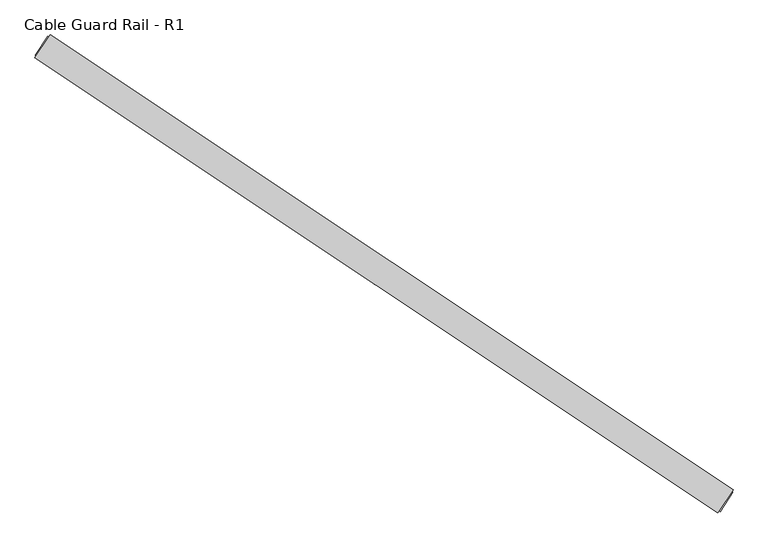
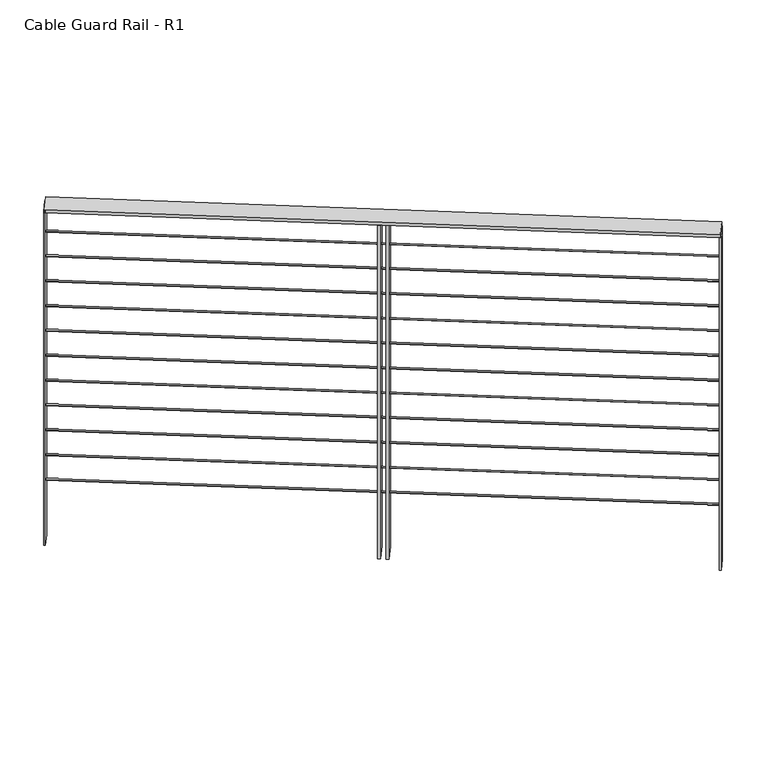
"""IFC4 building model written with IfcOpenShell, lengths in millimetres: railing geometry, Cable Guard Rail - R1."""

from ifc_helpers import new_model, si_unit, point, frame, origin, origin_2d, place, context, project, spatial, polyline, circle_curve, trimmed, segment, composite_curve, outline, extrude, source, transform, mapped, element, save


def cable_guard_rail_r1_27c920db(model_context):
    return source(origin(), model_context, "Body", "SweptSolid", [
        extrude(outline(polyline([(49368.699992, 176661.2791287), (49326.4476403, 176597.8663636), (47436.5035564, 177857.1488133), (47478.7559081, 177920.5615783), (49368.699992, 176661.2791287)])), frame((0.0, 0.0, 294906.7), z_axis=(0.0, 0.0, 1.0), x_axis=(1.0, 0.0, 0.0)), (0.0, 0.0, 1.0), 12.7),
        extrude(outline(composite_curve([segment(trimmed(circle_curve(origin_2d(), 3.175), [point((-3.175, 0.0))], [point((3.175, 0.0))], False, "CARTESIAN"), True, "CONTINUOUS"), segment(trimmed(circle_curve(origin_2d(), 3.175), [point((3.175, 0.0))], [point((-3.175, 0.0))], False, "CARTESIAN"), True, "CONTINUOUS")], self_intersect=False)), frame((49347.5738161, 176629.5727462, 294805.1), z_axis=(-0.8321885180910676, 0.5544928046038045, 0.0), x_axis=(0.5544928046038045, 0.8321885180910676, 0.0)), (0.0, 0.0, 1.0), 2271.0528237),
        extrude(outline(composite_curve([segment(trimmed(circle_curve(origin_2d(), 3.175), [point((-3.175, 0.0))], [point((3.175, 0.0))], False, "CARTESIAN"), True, "CONTINUOUS"), segment(trimmed(circle_curve(origin_2d(), 3.175), [point((3.175, 0.0))], [point((-3.175, 0.0))], False, "CARTESIAN"), True, "CONTINUOUS")], self_intersect=False)), frame((49347.5738161, 176629.5727462, 294703.5), z_axis=(-0.8321885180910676, 0.5544928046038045, 0.0), x_axis=(0.5544928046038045, 0.8321885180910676, 0.0)), (0.0, 0.0, 1.0), 2271.0528237),
        extrude(outline(composite_curve([segment(trimmed(circle_curve(origin_2d(), 3.175), [point((-3.175, 0.0))], [point((3.175, 0.0))], False, "CARTESIAN"), True, "CONTINUOUS"), segment(trimmed(circle_curve(origin_2d(), 3.175), [point((3.175, 0.0))], [point((-3.175, 0.0))], False, "CARTESIAN"), True, "CONTINUOUS")], self_intersect=False)), frame((49347.5738161, 176629.5727462, 294601.9), z_axis=(-0.8321885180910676, 0.5544928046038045, 0.0), x_axis=(0.5544928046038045, 0.8321885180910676, 0.0)), (0.0, 0.0, 1.0), 2271.0528237),
        extrude(outline(composite_curve([segment(trimmed(circle_curve(origin_2d(), 3.175), [point((-3.175, 0.0))], [point((3.175, 0.0))], False, "CARTESIAN"), True, "CONTINUOUS"), segment(trimmed(circle_curve(origin_2d(), 3.175), [point((3.175, 0.0))], [point((-3.175, 0.0))], False, "CARTESIAN"), True, "CONTINUOUS")], self_intersect=False)), frame((49347.5738161, 176629.5727462, 294500.3), z_axis=(-0.8321885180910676, 0.5544928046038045, 0.0), x_axis=(0.5544928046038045, 0.8321885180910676, 0.0)), (0.0, 0.0, 1.0), 2271.0528237),
        extrude(outline(composite_curve([segment(trimmed(circle_curve(origin_2d(), 3.175), [point((-3.175, 0.0))], [point((3.175, 0.0))], False, "CARTESIAN"), True, "CONTINUOUS"), segment(trimmed(circle_curve(origin_2d(), 3.175), [point((3.175, 0.0))], [point((-3.175, 0.0))], False, "CARTESIAN"), True, "CONTINUOUS")], self_intersect=False)), frame((49347.5738161, 176629.5727462, 294398.7), z_axis=(-0.8321885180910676, 0.5544928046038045, 0.0), x_axis=(0.5544928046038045, 0.8321885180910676, 0.0)), (0.0, 0.0, 1.0), 2271.0528237),
        extrude(outline(composite_curve([segment(trimmed(circle_curve(origin_2d(), 3.175), [point((-3.175, 0.0))], [point((3.175, 0.0))], False, "CARTESIAN"), True, "CONTINUOUS"), segment(trimmed(circle_curve(origin_2d(), 3.175), [point((3.175, 0.0))], [point((-3.175, 0.0))], False, "CARTESIAN"), True, "CONTINUOUS")], self_intersect=False)), frame((49347.5738161, 176629.5727462, 294297.1), z_axis=(-0.8321885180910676, 0.5544928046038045, 0.0), x_axis=(0.5544928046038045, 0.8321885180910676, 0.0)), (0.0, 0.0, 1.0), 2271.0528237),
        extrude(outline(composite_curve([segment(trimmed(circle_curve(origin_2d(), 3.175), [point((-3.175, 0.0))], [point((3.175, 0.0))], False, "CARTESIAN"), True, "CONTINUOUS"), segment(trimmed(circle_curve(origin_2d(), 3.175), [point((3.175, 0.0))], [point((-3.175, 0.0))], False, "CARTESIAN"), True, "CONTINUOUS")], self_intersect=False)), frame((49347.5738161, 176629.5727462, 294195.5), z_axis=(-0.8321885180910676, 0.5544928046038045, 0.0), x_axis=(0.5544928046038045, 0.8321885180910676, 0.0)), (0.0, 0.0, 1.0), 2271.0528237),
        extrude(outline(composite_curve([segment(trimmed(circle_curve(origin_2d(), 3.175), [point((-3.175, 0.0))], [point((3.175, 0.0))], False, "CARTESIAN"), True, "CONTINUOUS"), segment(trimmed(circle_curve(origin_2d(), 3.175), [point((3.175, 0.0))], [point((-3.175, 0.0))], False, "CARTESIAN"), True, "CONTINUOUS")], self_intersect=False)), frame((49347.5738161, 176629.5727462, 294093.9), z_axis=(-0.8321885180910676, 0.5544928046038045, 0.0), x_axis=(0.5544928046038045, 0.8321885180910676, 0.0)), (0.0, 0.0, 1.0), 2271.0528237),
        extrude(outline(composite_curve([segment(trimmed(circle_curve(origin_2d(), 3.175), [point((-3.175, 0.0))], [point((3.175, 0.0))], False, "CARTESIAN"), True, "CONTINUOUS"), segment(trimmed(circle_curve(origin_2d(), 3.175), [point((3.175, 0.0))], [point((-3.175, 0.0))], False, "CARTESIAN"), True, "CONTINUOUS")], self_intersect=False)), frame((49347.5738161, 176629.5727462, 293992.3), z_axis=(-0.8321885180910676, 0.5544928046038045, 0.0), x_axis=(0.5544928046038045, 0.8321885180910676, 0.0)), (0.0, 0.0, 1.0), 2271.0528237),
        extrude(outline(composite_curve([segment(trimmed(circle_curve(origin_2d(), 3.175), [point((-3.175, 0.0))], [point((3.175, 0.0))], False, "CARTESIAN"), True, "CONTINUOUS"), segment(trimmed(circle_curve(origin_2d(), 3.175), [point((3.175, 0.0))], [point((-3.175, 0.0))], False, "CARTESIAN"), True, "CONTINUOUS")], self_intersect=False)), frame((49347.5738161, 176629.5727462, 293890.7), z_axis=(-0.8321885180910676, 0.5544928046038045, 0.0), x_axis=(0.5544928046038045, 0.8321885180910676, 0.0)), (0.0, 0.0, 1.0), 2271.0528237),
        extrude(outline(composite_curve([segment(trimmed(circle_curve(origin_2d(), 3.175), [point((-3.175, 0.0))], [point((3.175, 0.0))], False, "CARTESIAN"), True, "CONTINUOUS"), segment(trimmed(circle_curve(origin_2d(), 3.175), [point((3.175, 0.0))], [point((-3.175, 0.0))], False, "CARTESIAN"), True, "CONTINUOUS")], self_intersect=False)), frame((49347.5738161, 176629.5727462, 293789.1), z_axis=(-0.8321885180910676, 0.5544928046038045, 0.0), x_axis=(0.5544928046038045, 0.8321885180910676, 0.0)), (0.0, 0.0, 1.0), 2271.0528237),
        extrude(outline(polyline([(48399.9709882, 177215.1839859), (48392.0443925, 177220.4655298), (48434.2967443, 177283.8782949), (48442.2233399, 177278.5967509), (48399.9709882, 177215.1839859)])), frame((0.0, 0.0, 293541.45), z_axis=(0.0, 0.0, 1.0), x_axis=(1.0, 0.0, 0.0)), (0.0, 0.0, 1.0), 1365.25),
        extrude(outline(polyline([(48376.1912013, 177231.0286178), (48368.3047466, 177236.2834156), (48410.5570983, 177299.6961806), (48418.443553, 177294.4413828), (48376.1912013, 177231.0286178)])), frame((0.0, 0.0, 293541.45), z_axis=(0.0, 0.0, 1.0), x_axis=(1.0, 0.0, 0.0)), (0.0, 0.0, 1.0), 1365.25),
        extrude(outline(polyline([(47442.6667843, 177860.6726957), (47437.3823872, 177864.193725), (47472.5926803, 177917.0376959), (47477.8770774, 177913.5166666), (47442.6667843, 177860.6726957)])), frame((0.0, 0.0, 293541.45), z_axis=(0.0, 0.0, 1.0), x_axis=(1.0, 0.0, 0.0)), (0.0, 0.0, 1.0), 1365.25),
        extrude(outline(polyline([(49332.6108681, 176601.3902461), (49327.3264711, 176604.9112754), (49362.5367642, 176657.7552463), (49367.8211612, 176654.234217), (49332.6108681, 176601.3902461)])), frame((0.0, 0.0, 293541.45), z_axis=(0.0, 0.0, 1.0), x_axis=(1.0, 0.0, 0.0)), (0.0, 0.0, 1.0), 1365.25),
    ])


if __name__ == "__main__":
    model = new_model("IFC4")
    model_context = context("Model", 3, world=origin())
    ifc_project = project(units=[si_unit("LENGTHUNIT", "METRE", prefix="MILLI")], contexts=[model_context])
    site = spatial("IfcSite", under=ifc_project)
    building = spatial("IfcBuilding", under=site)
    placement = place(None, origin())
    cable_guard_rail_r1_shape = cable_guard_rail_r1_27c920db(model_context)
    element("IfcRailing", 1, ObjectType="Cable Guard Rail - R1", at=placement, inside=building, context=model_context, shape_type="MappedRepresentation", body=[
        mapped(cable_guard_rail_r1_shape, transform((0.0, 0.0, 0.0), x_axis=(1.0, 0.0, 0.0), y_axis=(0.0, 1.0, 0.0), z_axis=(0.0, 0.0, 1.0))),
    ])
    save(model, "model.ifc")
